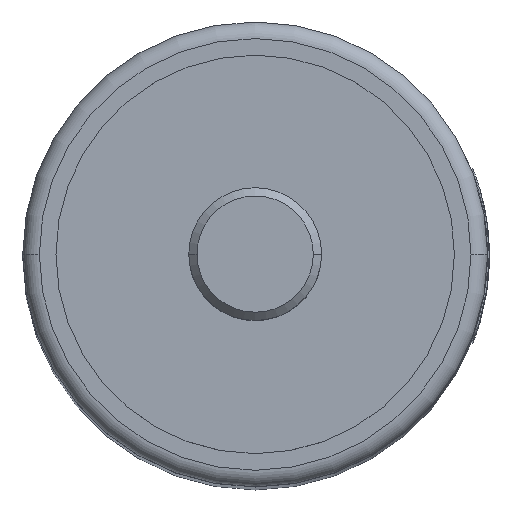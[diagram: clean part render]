
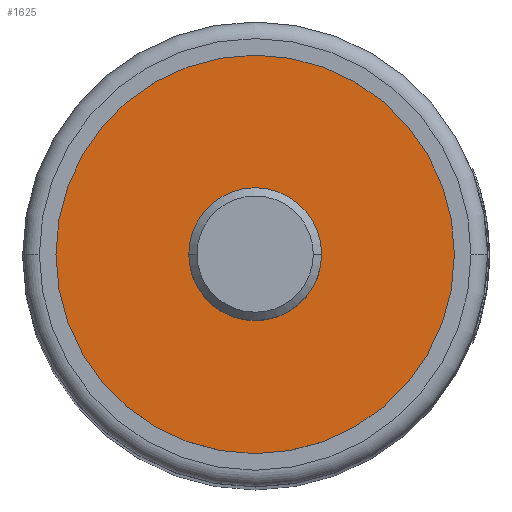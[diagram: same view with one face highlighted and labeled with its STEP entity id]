
A CAD part, top view. The second image highlights one B-rep face of the part: STEP entity #1625.
In plain terms, the highlighted planar face has unit normal (0, 0, 1).
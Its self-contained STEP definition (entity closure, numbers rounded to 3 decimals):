
#945 = DIRECTION ( 'NONE',  ( 0., 0., 1. ) ) ;
#1198 = DIRECTION ( 'NONE',  ( 1., 0., 0. ) ) ;
#1238 = CARTESIAN_POINT ( 'NONE',  ( 0., 0., 110. ) ) ;
#1625 = ADVANCED_FACE ( 'NONE', ( #18926, #12955 ), #5415, .T. ) ;
#2156 = EDGE_LOOP ( 'NONE', ( #17030, #6177 ) ) ;
#2378 = CARTESIAN_POINT ( 'NONE',  ( 0., 0., 110. ) ) ;
#2713 = AXIS2_PLACEMENT_3D ( 'NONE', #11153, #4989, #13897 ) ;
#2767 = AXIS2_PLACEMENT_3D ( 'NONE', #2378, #4139, #1198 ) ;
#3723 = DIRECTION ( 'NONE',  ( 0., 0., 1. ) ) ;
#4084 = DIRECTION ( 'NONE',  ( 1., 0., 0. ) ) ;
#4139 = DIRECTION ( 'NONE',  ( 0., 0., 1. ) ) ;
#4989 = DIRECTION ( 'NONE',  ( 0., 0., 1. ) ) ;
#5377 = DIRECTION ( 'NONE',  ( 1., 0., 0. ) ) ;
#5415 = PLANE ( 'NONE',  #2767 ) ;
#5527 = EDGE_LOOP ( 'NONE', ( #13048, #18527 ) ) ;
#5976 = CARTESIAN_POINT ( 'NONE',  ( 0., 0., 110. ) ) ;
#6177 = ORIENTED_EDGE ( 'NONE', *, *, #13156, .F. ) ;
#6240 = AXIS2_PLACEMENT_3D ( 'NONE', #5976, #10199, #13223 ) ;
#7132 = AXIS2_PLACEMENT_3D ( 'NONE', #1238, #945, #4084 ) ;
#7339 = VERTEX_POINT ( 'NONE', #9147 ) ;
#9147 = CARTESIAN_POINT ( 'NONE',  ( 4., 0., 110. ) ) ;
#10199 = DIRECTION ( 'NONE',  ( 0., 0., 1. ) ) ;
#10645 = VERTEX_POINT ( 'NONE', #18248 ) ;
#11153 = CARTESIAN_POINT ( 'NONE',  ( 0., 0., 110. ) ) ;
#11200 = CIRCLE ( 'NONE', #6240, 12. ) ;
#11794 = VERTEX_POINT ( 'NONE', #17262 ) ;
#11795 = CIRCLE ( 'NONE', #2713, 4. ) ;
#12955 = FACE_OUTER_BOUND ( 'NONE', #5527, .T. ) ;
#13048 = ORIENTED_EDGE ( 'NONE', *, *, #19224, .T. ) ;
#13156 = EDGE_CURVE ( 'NONE', #7339, #11794, #11795, .T. ) ;
#13223 = DIRECTION ( 'NONE',  ( 1., 0., 0. ) ) ;
#13677 = CIRCLE ( 'NONE', #19004, 4. ) ;
#13699 = CIRCLE ( 'NONE', #7132, 12. ) ;
#13897 = DIRECTION ( 'NONE',  ( 1., 0., 0. ) ) ;
#14195 = CARTESIAN_POINT ( 'NONE',  ( 0., 0., 110. ) ) ;
#15402 = VERTEX_POINT ( 'NONE', #16567 ) ;
#16567 = CARTESIAN_POINT ( 'NONE',  ( 12., 0., 110. ) ) ;
#17030 = ORIENTED_EDGE ( 'NONE', *, *, #17326, .F. ) ;
#17262 = CARTESIAN_POINT ( 'NONE',  ( -4., 0., 110. ) ) ;
#17326 = EDGE_CURVE ( 'NONE', #11794, #7339, #13677, .T. ) ;
#18248 = CARTESIAN_POINT ( 'NONE',  ( -12., 0., 110. ) ) ;
#18527 = ORIENTED_EDGE ( 'NONE', *, *, #18536, .T. ) ;
#18536 = EDGE_CURVE ( 'NONE', #15402, #10645, #11200, .T. ) ;
#18926 = FACE_BOUND ( 'NONE', #2156, .T. ) ;
#19004 = AXIS2_PLACEMENT_3D ( 'NONE', #14195, #3723, #5377 ) ;
#19224 = EDGE_CURVE ( 'NONE', #10645, #15402, #13699, .T. ) ;
